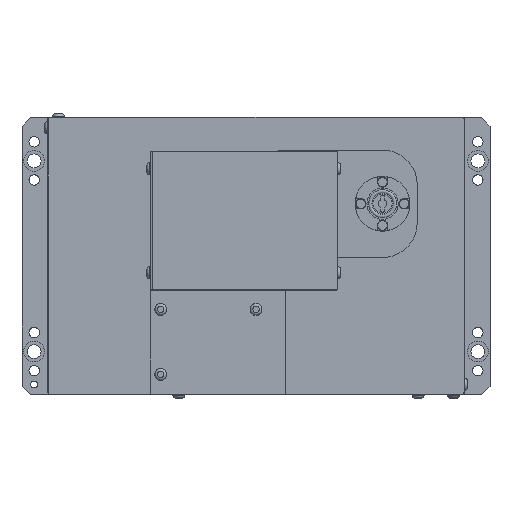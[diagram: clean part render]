
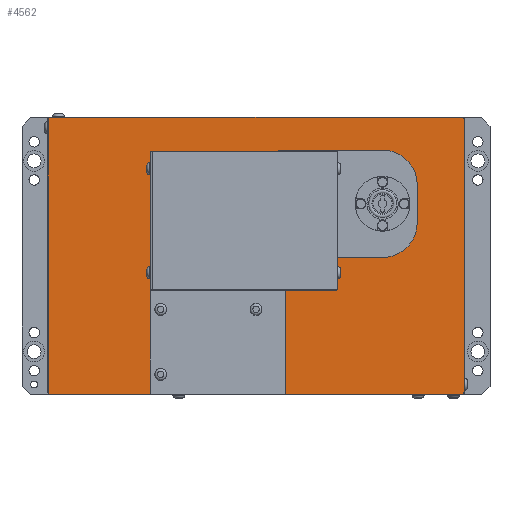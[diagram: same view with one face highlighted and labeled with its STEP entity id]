
A CAD part, top view. The second image highlights one B-rep face of the part: STEP entity #4562.
In plain terms, the highlighted planar face has unit normal (0, 0, 1).
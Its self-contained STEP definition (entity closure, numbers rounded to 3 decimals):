
#264=PLANE('',#4950);
#499=FACE_OUTER_BOUND('',#842,.T.);
#842=EDGE_LOOP('',(#3579,#3580,#3581,#3582,#3583,#3584,#3585,#3586,#3587,
#3588,#3589,#3590,#3591,#3592,#3593,#3594,#3595,#3596,#3597,#3598,#3599,
#3600));
#1128=LINE('',#6705,#1527);
#1151=LINE('',#6938,#1550);
#1156=LINE('',#6947,#1555);
#1203=LINE('',#7083,#1602);
#1211=LINE('',#7099,#1610);
#1212=LINE('',#7102,#1611);
#1215=LINE('',#7110,#1614);
#1218=LINE('',#7118,#1617);
#1221=LINE('',#7126,#1620);
#1224=LINE('',#7134,#1623);
#1226=LINE('',#7138,#1625);
#1228=LINE('',#7142,#1627);
#1231=LINE('',#7150,#1630);
#1234=LINE('',#7158,#1633);
#1236=LINE('',#7163,#1635);
#1527=VECTOR('',#5293,79.98);
#1550=VECTOR('',#5586,60.);
#1555=VECTOR('',#5593,0.01);
#1602=VECTOR('',#5716,66.);
#1610=VECTOR('',#5734,4.765);
#1611=VECTOR('',#5737,58.);
#1614=VECTOR('',#5746,157.98);
#1617=VECTOR('',#5755,238.);
#1620=VECTOR('',#5764,157.98);
#1623=VECTOR('',#5773,101.98);
#1625=VECTOR('',#5777,78.99);
#1627=VECTOR('',#5781,55.98);
#1630=VECTOR('',#5790,22.);
#1633=VECTOR('',#5799,55.99);
#1635=VECTOR('',#5807,1.);
#1986=CIRCLE('',#4928,1.);
#1987=CIRCLE('',#4931,1.);
#1988=CIRCLE('',#4934,1.);
#1989=CIRCLE('',#4937,1.);
#1990=CIRCLE('',#4942,20.);
#1991=CIRCLE('',#4945,20.);
#1992=CIRCLE('',#4948,20.);
#2129=VERTEX_POINT('',#6692);
#2133=VERTEX_POINT('',#6703);
#2208=VERTEX_POINT('',#6937);
#2211=VERTEX_POINT('',#6945);
#2248=VERTEX_POINT('',#7027);
#2262=VERTEX_POINT('',#7081);
#2265=VERTEX_POINT('',#7097);
#2266=VERTEX_POINT('',#7101);
#2267=VERTEX_POINT('',#7105);
#2268=VERTEX_POINT('',#7109);
#2269=VERTEX_POINT('',#7113);
#2270=VERTEX_POINT('',#7117);
#2271=VERTEX_POINT('',#7121);
#2272=VERTEX_POINT('',#7125);
#2273=VERTEX_POINT('',#7129);
#2274=VERTEX_POINT('',#7133);
#2275=VERTEX_POINT('',#7137);
#2276=VERTEX_POINT('',#7141);
#2277=VERTEX_POINT('',#7145);
#2278=VERTEX_POINT('',#7149);
#2279=VERTEX_POINT('',#7153);
#2280=VERTEX_POINT('',#7157);
#2580=EDGE_CURVE('',#2129,#2133,#1128,.T.);
#2664=EDGE_CURVE('',#2208,#2129,#1151,.T.);
#2669=EDGE_CURVE('',#2133,#2211,#1156,.T.);
#2737=EDGE_CURVE('',#2248,#2262,#1203,.T.);
#2745=EDGE_CURVE('',#2262,#2265,#1211,.T.);
#2746=EDGE_CURVE('',#2266,#2208,#1212,.T.);
#2748=EDGE_CURVE('',#2267,#2266,#1986,.T.);
#2750=EDGE_CURVE('',#2268,#2267,#1215,.T.);
#2752=EDGE_CURVE('',#2269,#2268,#1987,.T.);
#2754=EDGE_CURVE('',#2270,#2269,#1218,.T.);
#2756=EDGE_CURVE('',#2271,#2270,#1988,.T.);
#2758=EDGE_CURVE('',#2272,#2271,#1221,.T.);
#2760=EDGE_CURVE('',#2273,#2272,#1989,.T.);
#2762=EDGE_CURVE('',#2274,#2273,#1224,.T.);
#2764=EDGE_CURVE('',#2275,#2274,#1226,.T.);
#2766=EDGE_CURVE('',#2276,#2275,#1228,.T.);
#2768=EDGE_CURVE('',#2277,#2276,#1990,.T.);
#2770=EDGE_CURVE('',#2278,#2277,#1231,.T.);
#2772=EDGE_CURVE('',#2279,#2278,#1991,.T.);
#2774=EDGE_CURVE('',#2280,#2279,#1234,.T.);
#2776=EDGE_CURVE('',#2265,#2280,#1992,.T.);
#2777=EDGE_CURVE('',#2211,#2248,#1236,.T.);
#3579=ORIENTED_EDGE('',*,*,#2664,.T.);
#3580=ORIENTED_EDGE('',*,*,#2580,.T.);
#3581=ORIENTED_EDGE('',*,*,#2669,.T.);
#3582=ORIENTED_EDGE('',*,*,#2777,.T.);
#3583=ORIENTED_EDGE('',*,*,#2737,.T.);
#3584=ORIENTED_EDGE('',*,*,#2745,.T.);
#3585=ORIENTED_EDGE('',*,*,#2776,.T.);
#3586=ORIENTED_EDGE('',*,*,#2774,.T.);
#3587=ORIENTED_EDGE('',*,*,#2772,.T.);
#3588=ORIENTED_EDGE('',*,*,#2770,.T.);
#3589=ORIENTED_EDGE('',*,*,#2768,.T.);
#3590=ORIENTED_EDGE('',*,*,#2766,.T.);
#3591=ORIENTED_EDGE('',*,*,#2764,.T.);
#3592=ORIENTED_EDGE('',*,*,#2762,.T.);
#3593=ORIENTED_EDGE('',*,*,#2760,.T.);
#3594=ORIENTED_EDGE('',*,*,#2758,.T.);
#3595=ORIENTED_EDGE('',*,*,#2756,.T.);
#3596=ORIENTED_EDGE('',*,*,#2754,.T.);
#3597=ORIENTED_EDGE('',*,*,#2752,.T.);
#3598=ORIENTED_EDGE('',*,*,#2750,.T.);
#3599=ORIENTED_EDGE('',*,*,#2748,.T.);
#3600=ORIENTED_EDGE('',*,*,#2746,.T.);
#4562=ADVANCED_FACE('',(#499),#264,.T.);
#4928=AXIS2_PLACEMENT_3D('',#7106,#5741,#5742);
#4931=AXIS2_PLACEMENT_3D('',#7114,#5750,#5751);
#4934=AXIS2_PLACEMENT_3D('',#7122,#5759,#5760);
#4937=AXIS2_PLACEMENT_3D('',#7130,#5768,#5769);
#4942=AXIS2_PLACEMENT_3D('',#7146,#5785,#5786);
#4945=AXIS2_PLACEMENT_3D('',#7154,#5794,#5795);
#4948=AXIS2_PLACEMENT_3D('',#7161,#5803,#5804);
#4950=AXIS2_PLACEMENT_3D('',#7164,#5808,#5809);
#5293=DIRECTION('',(0.,1.,0.));
#5586=DIRECTION('',(0.,1.,0.));
#5593=DIRECTION('',(0.,1.,0.));
#5716=DIRECTION('',(1.,0.,0.));
#5734=DIRECTION('',(1.,0.,0.));
#5737=DIRECTION('',(1.,0.,0.));
#5741=DIRECTION('center_axis',(0.,0.,
1.));
#5742=DIRECTION('ref_axis',(-1.,0.,0.));
#5746=DIRECTION('',(0.,-1.,0.));
#5750=DIRECTION('center_axis',(0.,0.,
1.));
#5751=DIRECTION('ref_axis',(0.,1.,0.));
#5755=DIRECTION('',(-1.,0.,0.));
#5759=DIRECTION('center_axis',(0.,0.,
1.));
#5760=DIRECTION('ref_axis',(1.,0.,0.));
#5764=DIRECTION('',(0.,1.,0.));
#5768=DIRECTION('center_axis',(0.,0.,
1.));
#5769=DIRECTION('ref_axis',(0.,-1.,0.));
#5773=DIRECTION('',(1.,0.,0.));
#5777=DIRECTION('',(0.,-1.,0.));
#5781=DIRECTION('',(-1.,0.,0.));
#5785=DIRECTION('center_axis',(0.,0.,
-1.));
#5786=DIRECTION('ref_axis',(0.,1.,0.));
#5790=DIRECTION('',(0.,-1.,0.));
#5794=DIRECTION('center_axis',(0.,0.,
-1.));
#5795=DIRECTION('ref_axis',(-1.,0.,0.));
#5799=DIRECTION('',(1.,0.,0.));
#5803=DIRECTION('center_axis',(0.,0.,
-1.));
#5804=DIRECTION('ref_axis',(0.,-1.,0.));
#5807=DIRECTION('',(1.,0.,0.));
#5808=DIRECTION('center_axis',(0.,0.,
1.));
#5809=DIRECTION('ref_axis',(1.,0.,0.));
#6692=CARTESIAN_POINT('',(-196.,-99.99,171.));
#6703=CARTESIAN_POINT('',(-196.,-20.01,171.));
#6705=CARTESIAN_POINT('',(-196.,-159.99,171.));
#6937=CARTESIAN_POINT('',(-196.,-159.99,171.));
#6938=CARTESIAN_POINT('',(-196.,-159.99,171.));
#6945=CARTESIAN_POINT('',(-196.,-20.,171.));
#6947=CARTESIAN_POINT('',(-196.,-159.99,171.));
#7027=CARTESIAN_POINT('',(-195.,-20.,171.));
#7081=CARTESIAN_POINT('',(-129.,-20.,171.));
#7083=CARTESIAN_POINT('',(-196.,-20.,171.));
#7097=CARTESIAN_POINT('',(-124.235,-20.,171.));
#7099=CARTESIAN_POINT('',(-196.,-20.,171.));
#7101=CARTESIAN_POINT('',(-254.,-159.99,171.));
#7102=CARTESIAN_POINT('',(-254.,-159.99,171.));
#7105=CARTESIAN_POINT('',(-255.,-158.99,171.));
#7106=CARTESIAN_POINT('Origin',(-254.,-158.99,171.));
#7109=CARTESIAN_POINT('',(-255.,-1.01,171.));
#7110=CARTESIAN_POINT('',(-255.,-1.01,171.));
#7113=CARTESIAN_POINT('',(-254.,-0.01,171.));
#7114=CARTESIAN_POINT('Origin',(-254.,-1.01,171.));
#7117=CARTESIAN_POINT('',(-16.,-0.01,171.));
#7118=CARTESIAN_POINT('',(-16.,-0.01,171.));
#7121=CARTESIAN_POINT('',(-15.,-1.01,171.));
#7122=CARTESIAN_POINT('Origin',(-16.,-1.01,171.));
#7125=CARTESIAN_POINT('',(-15.,-158.99,171.));
#7126=CARTESIAN_POINT('',(-15.,-158.99,171.));
#7129=CARTESIAN_POINT('',(-16.,-159.99,171.));
#7130=CARTESIAN_POINT('Origin',(-16.,-158.99,171.));
#7133=CARTESIAN_POINT('',(-117.98,-159.99,171.));
#7134=CARTESIAN_POINT('',(-117.98,-159.99,171.));
#7137=CARTESIAN_POINT('',(-117.98,-81.,171.));
#7138=CARTESIAN_POINT('',(-117.98,-81.,171.));
#7141=CARTESIAN_POINT('',(-62.,-81.,171.));
#7142=CARTESIAN_POINT('',(-62.,-81.,171.));
#7145=CARTESIAN_POINT('',(-42.,-61.,171.));
#7146=CARTESIAN_POINT('Origin',(-62.,-61.,171.));
#7149=CARTESIAN_POINT('',(-42.,-39.,171.));
#7150=CARTESIAN_POINT('',(-42.,-39.,171.));
#7153=CARTESIAN_POINT('',(-62.,-19.,171.));
#7154=CARTESIAN_POINT('Origin',(-62.,-39.,171.));
#7157=CARTESIAN_POINT('',(-117.99,-19.,171.));
#7158=CARTESIAN_POINT('',(-117.99,-19.,171.));
#7161=CARTESIAN_POINT('Origin',(-117.99,-39.,171.));
#7163=CARTESIAN_POINT('',(-196.,-20.,171.));
#7164=CARTESIAN_POINT('Origin',(-131.729,-70.236,171.));
